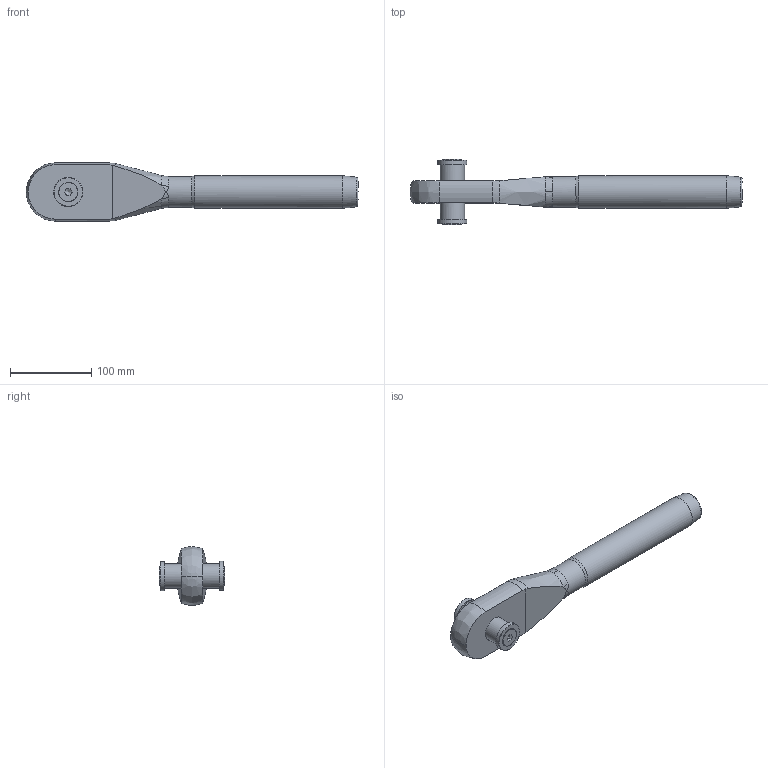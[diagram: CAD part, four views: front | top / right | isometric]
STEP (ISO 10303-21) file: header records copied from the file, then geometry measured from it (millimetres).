
FILE_DESCRIPTION(/* description */ (''),/* implementation_level */ '2;1');
FILE_NAME(/* name */ 'MCC 22_42CrMo4',/* time_stamp */ '2023-05-23T15:41:02+02:00',/* author */ (''),/* organization */ (''),/* preprocessor_version */ 'ST-DEVELOPER v16.5',/* originating_system */ 'Rhino 7.22',/* authorisation */ '');
FILE_SCHEMA (('CONFIG_CONTROL_DESIGN'));
Length unit declared in the file: millimetre
Products named in the file (1): Document
Bounding box: 408 x 80 x 71.91 mm (x, y, z)
Volume: 619750.7 mm3; surface area: 79028.5 mm2
Topology: 6 solids, 6 shells, 74 faces, 203 edges, 135 vertices
Faces by surface type: bspline 31, plane 27, cylinder 16
Full cylindrical faces by diameter (mm): 10.106 x2, 12 x2, 12.5 x2, 23.12 x2, 30 x1, 32 x1, 36 x2, 38.1 x1, 40 x1
Entity records: 3245 total; most frequent: CARTESIAN_POINT 1990, ORIENTED_EDGE 386, EDGE_CURVE 193, VERTEX_POINT 135, EDGE_LOOP 84, ADVANCED_FACE 74, FACE_OUTER_BOUND 74, B_SPLINE_CURVE_WITH_KNOTS 64
